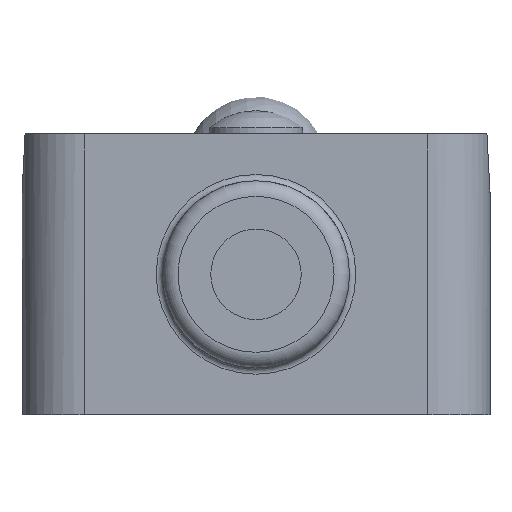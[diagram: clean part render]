
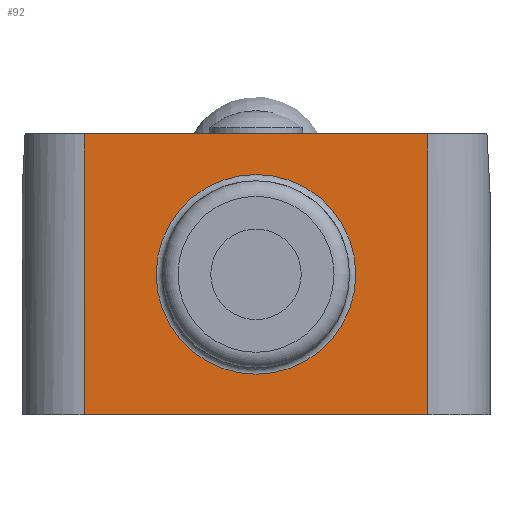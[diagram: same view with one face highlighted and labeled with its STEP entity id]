
A CAD part, front view. The second image highlights one B-rep face of the part: STEP entity #92.
In plain terms, the highlighted planar face has unit normal (0, -1, 0).
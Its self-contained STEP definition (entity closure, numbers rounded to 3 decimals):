
#92 = ADVANCED_FACE( '', ( #222, #223 ), #224, .F. );
#222 = FACE_OUTER_BOUND( '', #467, .T. );
#223 = FACE_BOUND( '', #468, .T. );
#224 = PLANE( '', #469 );
#467 = EDGE_LOOP( '', ( #812, #813, #814, #815 ) );
#468 = EDGE_LOOP( '', ( #816 ) );
#469 = AXIS2_PLACEMENT_3D( '', #817, #818, #819 );
#812 = ORIENTED_EDGE( '', *, *, #1489, .T. );
#813 = ORIENTED_EDGE( '', *, *, #1490, .F. );
#814 = ORIENTED_EDGE( '', *, *, #1491, .F. );
#815 = ORIENTED_EDGE( '', *, *, #1492, .T. );
#816 = ORIENTED_EDGE( '', *, *, #1493, .F. );
#817 = CARTESIAN_POINT( '', ( -5.5, 0., 4.5 ) );
#818 = DIRECTION( '', ( 0., 1., 0. ) );
#819 = DIRECTION( '', ( 0., 0., 1. ) );
#1489 = EDGE_CURVE( '', #1773, #1774, #1775, .T. );
#1490 = EDGE_CURVE( '', #1776, #1774, #1777, .T. );
#1491 = EDGE_CURVE( '', #1778, #1776, #1779, .T. );
#1492 = EDGE_CURVE( '', #1778, #1773, #1780, .T. );
#1493 = EDGE_CURVE( '', #1781, #1781, #1782, .T. );
#1773 = VERTEX_POINT( '', #2381 );
#1774 = VERTEX_POINT( '', #2382 );
#1775 = LINE( '', #2383, #2384 );
#1776 = VERTEX_POINT( '', #2385 );
#1777 = LINE( '', #2386, #2387 );
#1778 = VERTEX_POINT( '', #2388 );
#1779 = LINE( '', #2389, #2390 );
#1780 = LINE( '', #2391, #2392 );
#1781 = VERTEX_POINT( '', #2393 );
#1782 = CIRCLE( '', #2394, 3.2 );
#2381 = CARTESIAN_POINT( '', ( -5.5, 0., -4.5 ) );
#2382 = CARTESIAN_POINT( '', ( 5.5, 0., -4.5 ) );
#2383 = CARTESIAN_POINT( '', ( -5.5, 0., -4.5 ) );
#2384 = VECTOR( '', #2875, 1000. );
#2385 = CARTESIAN_POINT( '', ( 5.5, 0., 4.5 ) );
#2386 = CARTESIAN_POINT( '', ( 5.5, 0., 4.5 ) );
#2387 = VECTOR( '', #2876, 1000. );
#2388 = CARTESIAN_POINT( '', ( -5.5, 0., 4.5 ) );
#2389 = CARTESIAN_POINT( '', ( -5.5, 0., 4.5 ) );
#2390 = VECTOR( '', #2877, 1000. );
#2391 = CARTESIAN_POINT( '', ( -5.5, 0., 4.5 ) );
#2392 = VECTOR( '', #2878, 1000. );
#2393 = CARTESIAN_POINT( '', ( 0., 0., -3.2 ) );
#2394 = AXIS2_PLACEMENT_3D( '', #2879, #2880, #2881 );
#2875 = DIRECTION( '', ( 1., 0., 0. ) );
#2876 = DIRECTION( '', ( 0., 0., -1. ) );
#2877 = DIRECTION( '', ( 1., 0., 0. ) );
#2878 = DIRECTION( '', ( 0., 0., -1. ) );
#2879 = CARTESIAN_POINT( '', ( 0., 0., 0. ) );
#2880 = DIRECTION( '', ( 0., -1., 0. ) );
#2881 = DIRECTION( '', ( 0., 0., -1. ) );
